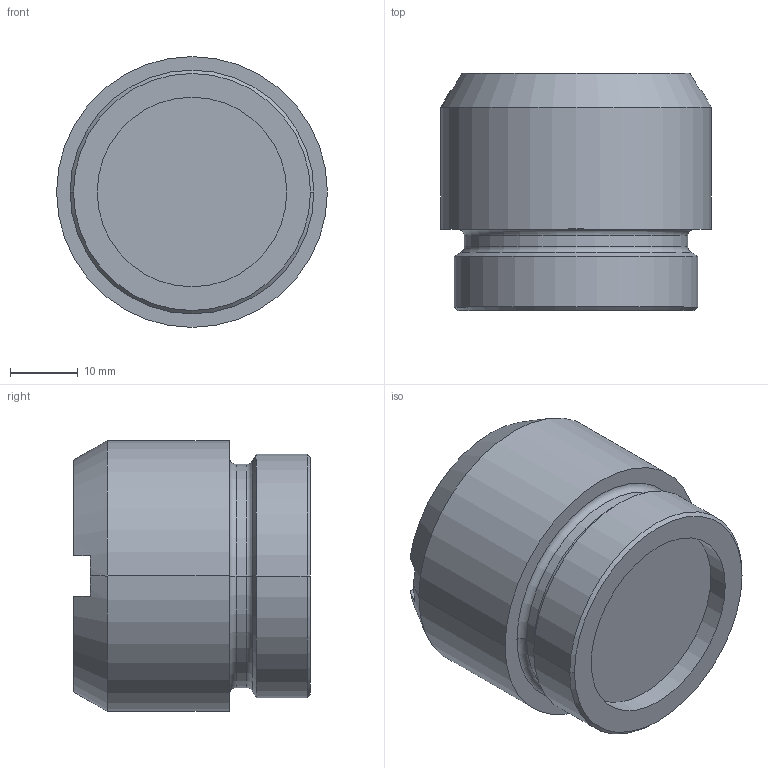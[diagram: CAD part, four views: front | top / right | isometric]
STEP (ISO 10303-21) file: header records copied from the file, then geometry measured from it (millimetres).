
FILE_DESCRIPTION((''),'2;1');
FILE_NAME('14714500_208542','2019-07-04T',('c.kretz'),(''),'PRO/ENGINEER BY PARAMETRIC TECHNOLOGY CORPORATION, 2015110','PRO/ENGINEER BY PARAMETRIC TECHNOLOGY CORPORATION, 2015110','');
FILE_SCHEMA(('AUTOMOTIVE_DESIGN { 1 0 10303 214 1 1 1 1 }'));
Length unit declared in the file: millimetre
Products named in the file (1): 14714500_208542
Bounding box: 40 x 35 x 40 mm (x, y, z)
Volume: 34298.3 mm3; surface area: 7297.3 mm2
Topology: 1 solids, 1 shells, 34 faces, 79 edges, 49 vertices
Faces by surface type: plane 12, cylinder 10, cone 8, torus 4
Entity records: 1823 total; most frequent: CARTESIAN_POINT 202, DIRECTION 180, ORIENTED_EDGE 158, PROPERTY_DEFINITION 92, REPRESENTATION 91, PROPERTY_DEFINITION_REPRESENTATION 91, PRESENTATION_STYLE_ASSIGNMENT 80, STYLED_ITEM 80
